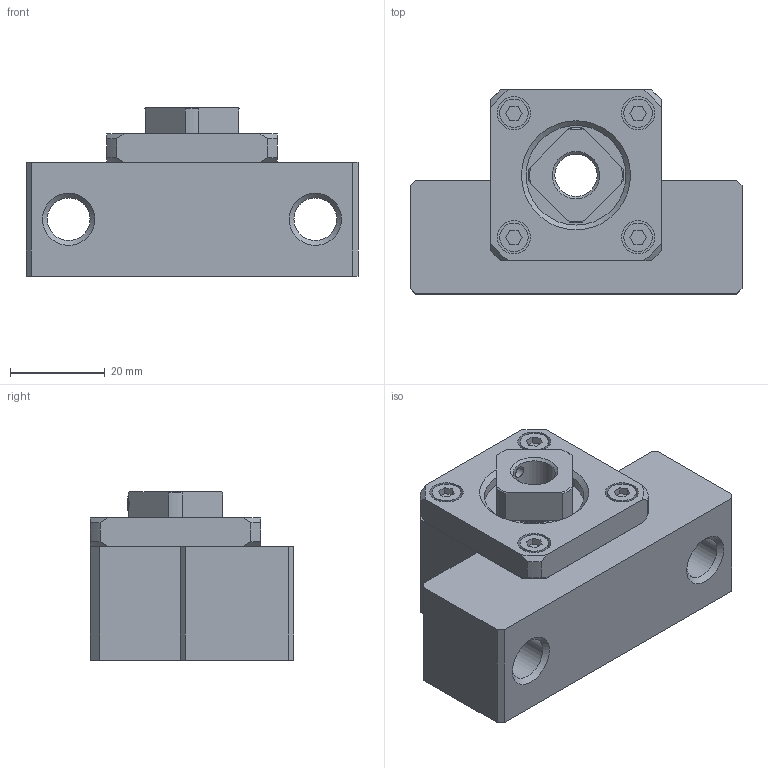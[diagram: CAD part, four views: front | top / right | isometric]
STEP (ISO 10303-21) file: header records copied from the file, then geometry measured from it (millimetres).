
FILE_DESCRIPTION(/* description */ ('STEP AP214'),/* implementation_level */ '2;1');
FILE_NAME(/* name */ 'EK10______CAD_NO_Yes',/* time_stamp */ '2026-09-17T12:55:28+02:00',/* author */ ('License CC BY-ND 4.0'),/* organization */ ('CADENAS'),/* preprocessor_version */ 'ST-DEVELOPER v20',/* originating_system */ 'PARTsolutions',/* authorisation */ ' ');
FILE_SCHEMA (('AUTOMOTIVE_DESIGN {1 0 10303 214 3 1 1}'));
Length unit declared in the file: millimetre
Products named in the file (4): EK10______CAD_NO_Yes; EK 10; EK 10collar; RN 10
Assembly tree (4 placements, depth 2):
  EK10______CAD_NO_Yes
    EK 10
    EK 10collar  x2
    RN 10
Bounding box: 70 x 43 x 35.5 mm (x, y, z)
Volume: 59226.8 mm3; surface area: 15635 mm2
Topology: 4 solids, 4 shells, 148 faces, 351 edges, 232 vertices
Faces by surface type: plane 90, cylinder 33, cone 25
Full cylindrical faces by diameter (mm): 2.459 x1, 3 x1, 6 x4, 7 x4, 8.917 x1, 9 x2, 10 x3, 13.9 x4, 15 x1, 21 x2, 21.1 x1
Entity records: 4168 total; most frequent: CARTESIAN_POINT 825, DIRECTION 658, ORIENTED_EDGE 620, EDGE_CURVE 310, AXIS2_PLACEMENT_3D 242, VERTEX_POINT 224, EDGE_LOOP 206, FACE_BOUND 206
